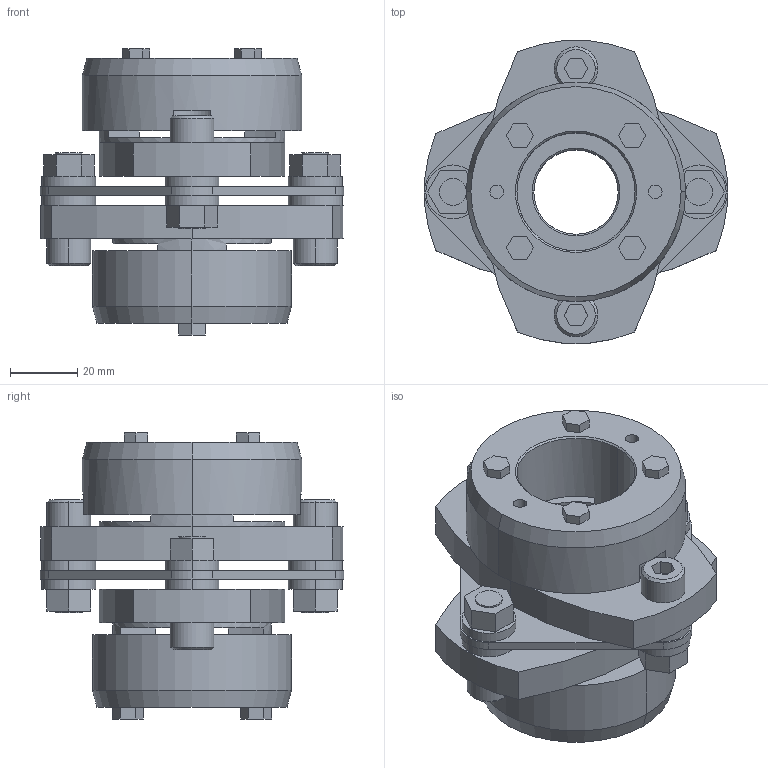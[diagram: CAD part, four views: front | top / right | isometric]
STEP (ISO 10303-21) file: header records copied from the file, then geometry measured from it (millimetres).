
FILE_DESCRIPTION((''),'2;1');
FILE_NAME('LCS-90T7-25×35.stp','2011-09-09T10:12:54',(''),(''),'AutoCAD STEP 2000i','AutoCAD 2000i',', , ');
FILE_SCHEMA(('CONFIG_CONTROL_DESIGN'));
Length unit declared in the file: millimetre
Products named in the file (12): LCS-90T7-25×35; 忣兜1; LC90T7-T035; LC90T7-T032; LC90T7-T030; LC90T7-T025-1; LC90T7-T025; LC90T7-T019-1; LC90T7-T019; LC90-B019-1; LC90-B019; LCS90-ITA
Assembly tree (11 placements, depth 2):
  LCS-90T7-25×35
    忣兜1
    LC90T7-T035
    LC90T7-T032
    LC90T7-T030
    LC90T7-T025-1
    LC90T7-T025
    LC90T7-T019-1
    LC90T7-T019
    LC90-B019-1
    LC90-B019
    LCS90-ITA
Bounding box: 90 x 89.94 x 84.8 mm (x, y, z)
Volume: 193826.4 mm3; surface area: 52505.4 mm2
Topology: 1 solids, 1 shells, 237 faces, 580 edges, 378 vertices
Faces by surface type: plane 135, cylinder 82, cone 20
Entity records: 7275 total; most frequent: DIRECTION 1282, CARTESIAN_POINT 1207, ORIENTED_EDGE 1160, EDGE_CURVE 580, AXIS2_PLACEMENT_3D 453, VERTEX_POINT 378, VECTOR 376, LINE 376
